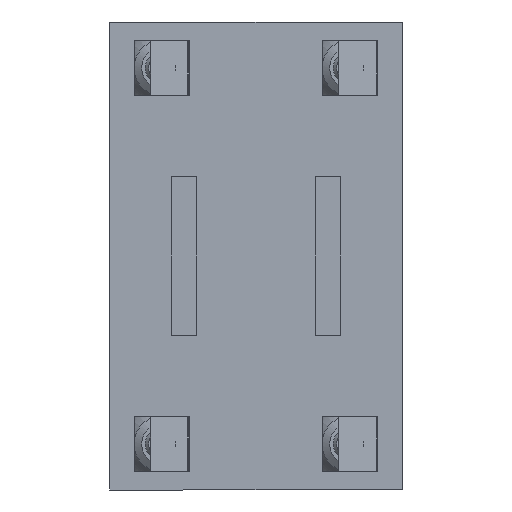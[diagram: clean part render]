
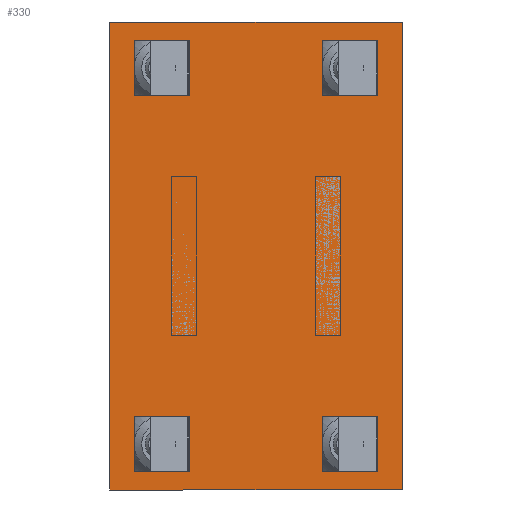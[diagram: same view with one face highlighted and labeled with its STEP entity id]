
A CAD part, front view. The second image highlights one B-rep face of the part: STEP entity #330.
In plain terms, the highlighted planar face has unit normal (0, -1, 0) as drawn and (0, 0, -1) by its records, which use the part's own axes.
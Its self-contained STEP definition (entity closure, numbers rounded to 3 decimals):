
#212 = FACE_BOUND ( 'NONE', #5021, .T. ) ;
#214 = FACE_OUTER_BOUND ( 'NONE', #5018, .T. ) ;
#216 = FACE_BOUND ( 'NONE', #5017, .T. ) ;
#217 = FACE_BOUND ( 'NONE', #5009, .T. ) ;
#219 = FACE_BOUND ( 'NONE', #5020, .T. ) ;
#330 = ADVANCED_FACE ( 'NONE', ( #216, #212, #219, #217, #214 ), #4488, .T. ) ;
#603 = EDGE_CURVE ( 'NONE', #3503, #3582, #2692, .T. ) ;
#605 = EDGE_CURVE ( 'NONE', #3176, #3573, #2696, .T. ) ;
#629 = EDGE_CURVE ( 'NONE', #3285, #3447, #2663, .T. ) ;
#644 = EDGE_CURVE ( 'NONE', #3573, #3176, #2643, .T. ) ;
#653 = EDGE_CURVE ( 'NONE', #3334, #3653, #2628, .T. ) ;
#661 = EDGE_CURVE ( 'NONE', #3677, #3690, #2620, .T. ) ;
#690 = EDGE_CURVE ( 'NONE', #3174, #3285, #1403, .T. ) ;
#760 = EDGE_CURVE ( 'NONE', #3653, #3334, #1306, .T. ) ;
#765 = EDGE_CURVE ( 'NONE', #3690, #3677, #1307, .T. ) ;
#770 = EDGE_CURVE ( 'NONE', #3582, #3503, #1301, .T. ) ;
#794 = EDGE_CURVE ( 'NONE', #3447, #3454, #1261, .T. ) ;
#796 = EDGE_CURVE ( 'NONE', #3454, #3174, #1269, .T. ) ;
#917 = AXIS2_PLACEMENT_3D ( 'NONE', #4465, #4351, #4476 ) ;
#1091 = AXIS2_PLACEMENT_3D ( 'NONE', #2386, #2384, #2466 ) ;
#1094 = AXIS2_PLACEMENT_3D ( 'NONE', #2365, #2020, #2022 ) ;
#1096 = AXIS2_PLACEMENT_3D ( 'NONE', #2425, #2426, #2429 ) ;
#1114 = AXIS2_PLACEMENT_3D ( 'NONE', #3783, #3782, #3778 ) ;
#1132 = AXIS2_PLACEMENT_3D ( 'NONE', #3790, #3789, #3788 ) ;
#1188 = AXIS2_PLACEMENT_3D ( 'NONE', #1920, #2433, #2192 ) ;
#1191 = AXIS2_PLACEMENT_3D ( 'NONE', #2184, #2595, #2154 ) ;
#1192 = AXIS2_PLACEMENT_3D ( 'NONE', #1901, #2474, #2565 ) ;
#1254 = VECTOR ( 'NONE', #1805, 1000. ) ;
#1258 = VECTOR ( 'NONE', #1806, 1000. ) ;
#1261 = LINE ( 'NONE', #1660, #1258 ) ;
#1269 = LINE ( 'NONE', #1704, #1254 ) ;
#1301 = CIRCLE ( 'NONE', #1188, 4.25 ) ;
#1306 = CIRCLE ( 'NONE', #1192, 4.25 ) ;
#1307 = CIRCLE ( 'NONE', #1191, 4.25 ) ;
#1401 = VECTOR ( 'NONE', #2346, 1000. ) ;
#1403 = LINE ( 'NONE', #2316, #1401 ) ;
#1660 = CARTESIAN_POINT ( 'NONE',  ( 56., -35.5, -6. ) ) ;
#1667 = CARTESIAN_POINT ( 'NONE',  ( -45., 17.75, -6. ) ) ;
#1704 = CARTESIAN_POINT ( 'NONE',  ( -56., -35.5, -6. ) ) ;
#1805 = DIRECTION ( 'NONE',  ( 0., 1., 0. ) ) ;
#1806 = DIRECTION ( 'NONE',  ( -1., 0., 0. ) ) ;
#1860 = CARTESIAN_POINT ( 'NONE',  ( 56., 34.5, -6. ) ) ;
#1886 = DIRECTION ( 'NONE',  ( 0., -1., 0. ) ) ;
#1901 = CARTESIAN_POINT ( 'NONE',  ( -45., 22., -6. ) ) ;
#1920 = CARTESIAN_POINT ( 'NONE',  ( 45., -23., -6. ) ) ;
#2015 = CARTESIAN_POINT ( 'NONE',  ( 45., 26.25, -6. ) ) ;
#2020 = DIRECTION ( 'NONE',  ( 0., 0., -1. ) ) ;
#2021 = CARTESIAN_POINT ( 'NONE',  ( 56., 34.5, -6. ) ) ;
#2022 = DIRECTION ( 'NONE',  ( 0., 1., 0. ) ) ;
#2036 = CARTESIAN_POINT ( 'NONE',  ( 45., 17.75, -6. ) ) ;
#2038 = CARTESIAN_POINT ( 'NONE',  ( -45., 26.25, -6. ) ) ;
#2086 = CARTESIAN_POINT ( 'NONE',  ( 45., -18.75, -6. ) ) ;
#2090 = CARTESIAN_POINT ( 'NONE',  ( -45., -18.75, -6. ) ) ;
#2119 = CARTESIAN_POINT ( 'NONE',  ( -45., -27.25, -6. ) ) ;
#2154 = DIRECTION ( 'NONE',  ( 0., 1., 0. ) ) ;
#2179 = CARTESIAN_POINT ( 'NONE',  ( 45., -27.25, -6. ) ) ;
#2184 = CARTESIAN_POINT ( 'NONE',  ( 45., 22., -6. ) ) ;
#2192 = DIRECTION ( 'NONE',  ( 0., 1., 0. ) ) ;
#2258 = CARTESIAN_POINT ( 'NONE',  ( 56., -35.5, -6. ) ) ;
#2266 = CARTESIAN_POINT ( 'NONE',  ( -56., -35.5, -6. ) ) ;
#2316 = CARTESIAN_POINT ( 'NONE',  ( -56., 34.5, -6. ) ) ;
#2318 = CARTESIAN_POINT ( 'NONE',  ( -56., 34.5, -6. ) ) ;
#2346 = DIRECTION ( 'NONE',  ( 1., 0., 0. ) ) ;
#2365 = CARTESIAN_POINT ( 'NONE',  ( -45., 22., -6. ) ) ;
#2384 = DIRECTION ( 'NONE',  ( 0., 0., -1. ) ) ;
#2386 = CARTESIAN_POINT ( 'NONE',  ( 45., 22., -6. ) ) ;
#2425 = CARTESIAN_POINT ( 'NONE',  ( -45., -23., -6. ) ) ;
#2426 = DIRECTION ( 'NONE',  ( 0., 0., -1. ) ) ;
#2429 = DIRECTION ( 'NONE',  ( 0., 1., 0. ) ) ;
#2433 = DIRECTION ( 'NONE',  ( 0., 0., -1. ) ) ;
#2466 = DIRECTION ( 'NONE',  ( 0., 1., 0. ) ) ;
#2474 = DIRECTION ( 'NONE',  ( 0., 0., -1. ) ) ;
#2565 = DIRECTION ( 'NONE',  ( 0., 1., 0. ) ) ;
#2595 = DIRECTION ( 'NONE',  ( 0., 0., -1. ) ) ;
#2620 = CIRCLE ( 'NONE', #1091, 4.25 ) ;
#2628 = CIRCLE ( 'NONE', #1094, 4.25 ) ;
#2643 = CIRCLE ( 'NONE', #1096, 4.25 ) ;
#2661 = VECTOR ( 'NONE', #1886, 1000. ) ;
#2663 = LINE ( 'NONE', #2021, #2661 ) ;
#2692 = CIRCLE ( 'NONE', #1132, 4.25 ) ;
#2696 = CIRCLE ( 'NONE', #1114, 4.25 ) ;
#3174 = VERTEX_POINT ( 'NONE', #2318 ) ;
#3176 = VERTEX_POINT ( 'NONE', #2119 ) ;
#3201 = ORIENTED_EDGE ( 'NONE', *, *, #796, .T. ) ;
#3222 = ORIENTED_EDGE ( 'NONE', *, *, #794, .T. ) ;
#3241 = ORIENTED_EDGE ( 'NONE', *, *, #690, .T. ) ;
#3285 = VERTEX_POINT ( 'NONE', #1860 ) ;
#3290 = ORIENTED_EDGE ( 'NONE', *, *, #770, .F. ) ;
#3334 = VERTEX_POINT ( 'NONE', #1667 ) ;
#3447 = VERTEX_POINT ( 'NONE', #2258 ) ;
#3454 = VERTEX_POINT ( 'NONE', #2266 ) ;
#3503 = VERTEX_POINT ( 'NONE', #2179 ) ;
#3504 = ORIENTED_EDGE ( 'NONE', *, *, #760, .F. ) ;
#3573 = VERTEX_POINT ( 'NONE', #2090 ) ;
#3582 = VERTEX_POINT ( 'NONE', #2086 ) ;
#3603 = ORIENTED_EDGE ( 'NONE', *, *, #765, .F. ) ;
#3617 = ORIENTED_EDGE ( 'NONE', *, *, #629, .T. ) ;
#3618 = ORIENTED_EDGE ( 'NONE', *, *, #653, .F. ) ;
#3621 = ORIENTED_EDGE ( 'NONE', *, *, #605, .F. ) ;
#3653 = VERTEX_POINT ( 'NONE', #2038 ) ;
#3661 = ORIENTED_EDGE ( 'NONE', *, *, #603, .F. ) ;
#3677 = VERTEX_POINT ( 'NONE', #2036 ) ;
#3686 = ORIENTED_EDGE ( 'NONE', *, *, #661, .F. ) ;
#3690 = VERTEX_POINT ( 'NONE', #2015 ) ;
#3706 = ORIENTED_EDGE ( 'NONE', *, *, #644, .F. ) ;
#3778 = DIRECTION ( 'NONE',  ( 0., 1., 0. ) ) ;
#3782 = DIRECTION ( 'NONE',  ( 0., 0., -1. ) ) ;
#3783 = CARTESIAN_POINT ( 'NONE',  ( -45., -23., -6. ) ) ;
#3788 = DIRECTION ( 'NONE',  ( 0., 1., 0. ) ) ;
#3789 = DIRECTION ( 'NONE',  ( 0., 0., -1. ) ) ;
#3790 = CARTESIAN_POINT ( 'NONE',  ( 45., -23., -6. ) ) ;
#4351 = DIRECTION ( 'NONE',  ( 0., 0., -1. ) ) ;
#4465 = CARTESIAN_POINT ( 'NONE',  ( 0., 0., -6. ) ) ;
#4476 = DIRECTION ( 'NONE',  ( -1., 0., 0. ) ) ;
#4488 = PLANE ( 'NONE',  #917 ) ;
#5009 = EDGE_LOOP ( 'NONE', ( #3706, #3621 ) ) ;
#5017 = EDGE_LOOP ( 'NONE', ( #3290, #3661 ) ) ;
#5018 = EDGE_LOOP ( 'NONE', ( #3241, #3617, #3222, #3201 ) ) ;
#5020 = EDGE_LOOP ( 'NONE', ( #3504, #3618 ) ) ;
#5021 = EDGE_LOOP ( 'NONE', ( #3603, #3686 ) ) ;
